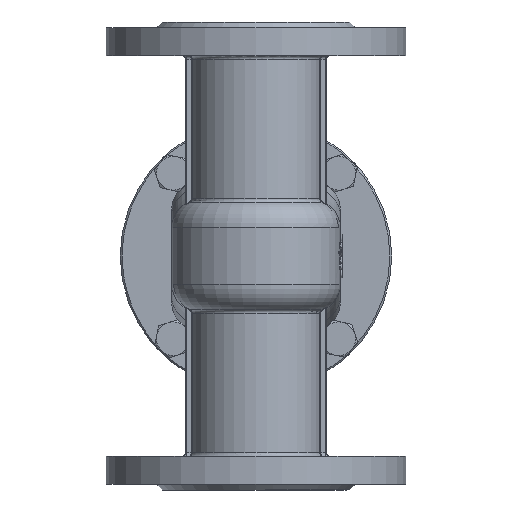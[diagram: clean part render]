
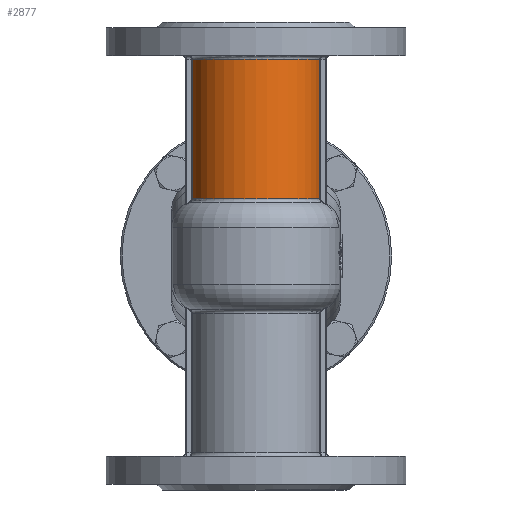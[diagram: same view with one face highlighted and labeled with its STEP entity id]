
A CAD part, front view. The second image highlights one B-rep face of the part: STEP entity #2877.
In plain terms, the highlighted cylindrical face has radius 35 mm (diameter 70 mm), a partial arc.
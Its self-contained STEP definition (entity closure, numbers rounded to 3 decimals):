
#2877=ADVANCED_FACE('',(#11196),#11198,.T.);
#11196=FACE_BOUND('',#11197,.T.);
#11197=EDGE_LOOP('',(#20103,#20104,#20105,#20106));
#11198=CYLINDRICAL_SURFACE('',#11199,35.);
#11199=AXIS2_PLACEMENT_3D('',#11200,#11201,#11202);
#11200=CARTESIAN_POINT('',(0.,0.,74.));
#11201=DIRECTION('',(0.,0.,1.));
#11202=DIRECTION('',(1.,0.,0.));
#20103=ORIENTED_EDGE('',*,*,#23538,.F.);
#20104=ORIENTED_EDGE('',*,*,#23539,.F.);
#20105=ORIENTED_EDGE('',*,*,#23367,.T.);
#20106=ORIENTED_EDGE('',*,*,#23540,.T.);
#23367=EDGE_CURVE('',#25997,#25999,#26001,.T.);
#23538=EDGE_CURVE('',#26286,#26287,#26288,.T.);
#23539=EDGE_CURVE('',#25997,#26286,#26289,.T.);
#23540=EDGE_CURVE('',#25999,#26287,#26290,.T.);
#25997=VERTEX_POINT('',#34815);
#25999=VERTEX_POINT('',#34832);
#26001=CIRCLE('',#34849,35.);
#26286=VERTEX_POINT('',#36565);
#26287=VERTEX_POINT('',#36566);
#26288=CIRCLE('',#36567,35.);
#26289=LINE('',#36571,#36572);
#26290=LINE('',#36574,#36575);
#34815=CARTESIAN_POINT('',(-34.1,-7.887,30.492));
#34832=CARTESIAN_POINT('',(34.1,-7.887,30.492));
#34849=AXIS2_PLACEMENT_3D('',#34850,#34851,#34852);
#34850=CARTESIAN_POINT('',(0.,0.,30.492));
#34851=DIRECTION('',(0.,0.,1.));
#34852=DIRECTION('',(-0.974,-0.225,0.));
#36565=CARTESIAN_POINT('',(-34.1,-7.887,105.));
#36566=CARTESIAN_POINT('',(34.1,-7.887,105.));
#36567=AXIS2_PLACEMENT_3D('',#36568,#36569,#36570);
#36568=CARTESIAN_POINT('',(0.,0.,105.));
#36569=DIRECTION('',(0.,0.,1.));
#36570=DIRECTION('',(-0.974,-0.225,0.));
#36571=CARTESIAN_POINT('',(-34.1,-7.887,30.492));
#36572=VECTOR('',#36573,1.);
#36573=DIRECTION('',(0.,0.,1.));
#36574=CARTESIAN_POINT('',(34.1,-7.887,30.492));
#36575=VECTOR('',#36576,1.);
#36576=DIRECTION('',(0.,0.,1.));
